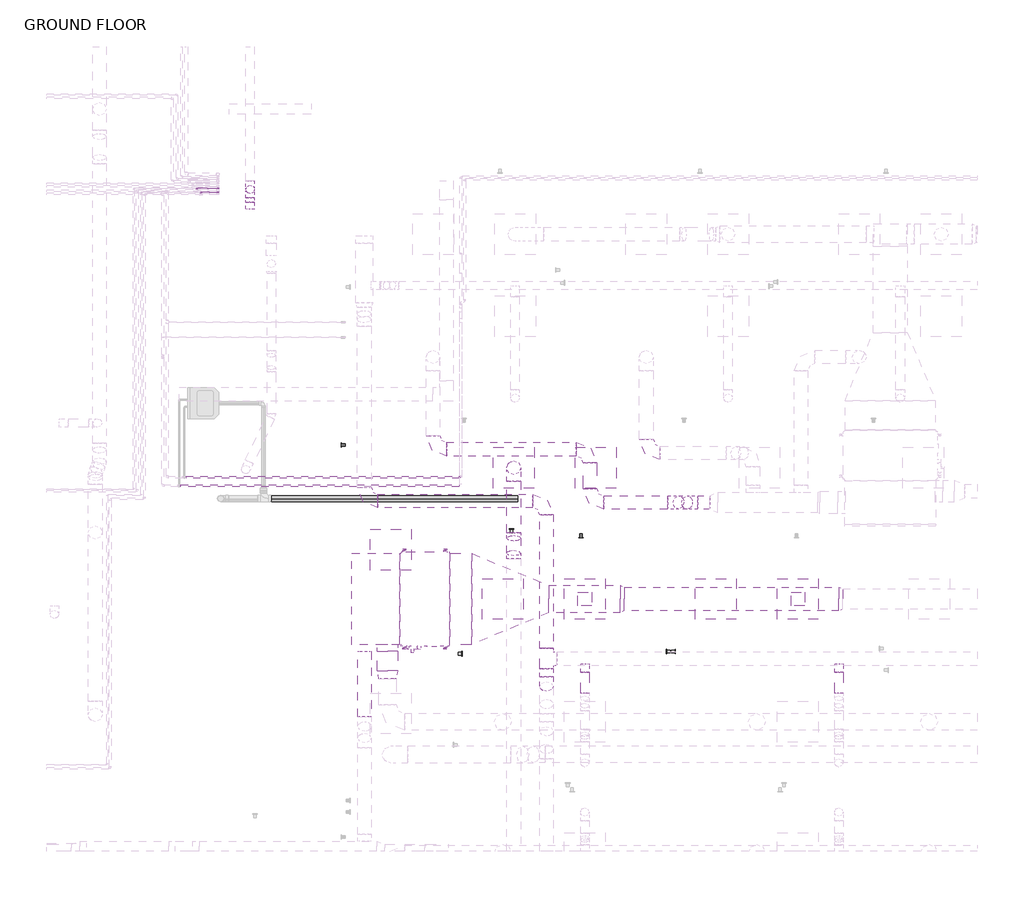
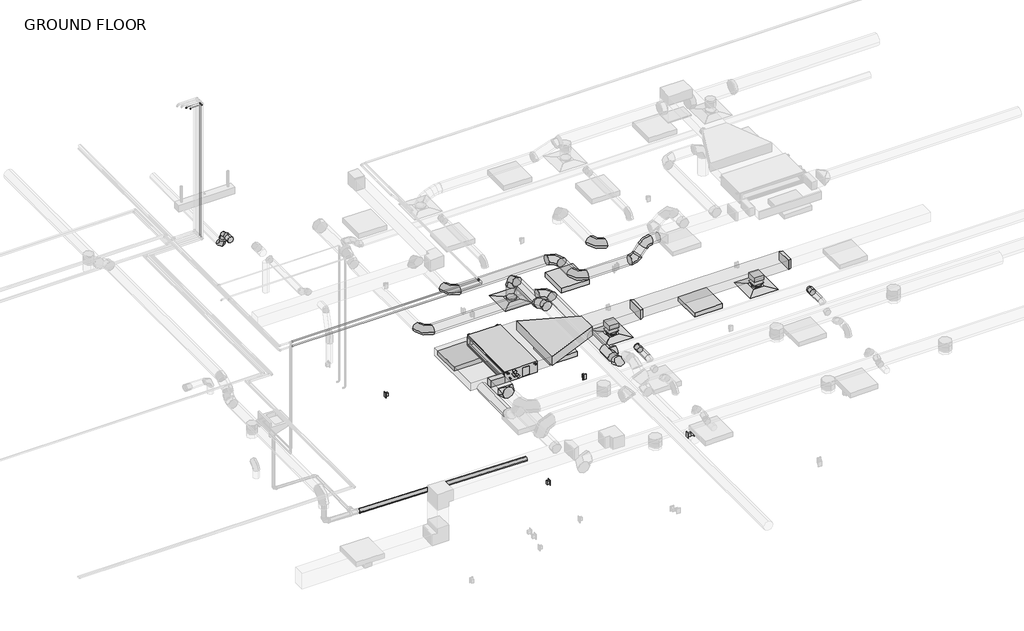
# One storey, part 14 of 21: 27 duct fittings, 23 duct segments, 7 pipe segments, 5 pipe fittings, 5 proxies, 4 light fixtures, 3 air terminals, 2 switching devices.
"""IFC4 building model written with IfcOpenShell, lengths in millimetres."""

from ifc_helpers import new_model, si_unit, point, frame, frame_2d, origin, place, context, project, spatial, polyline, circle_curve, trimmed, segment, composite_curve, outline, extrude, transform, mapped, element, save
from components import air_terminal_e9020785, mechanical_equipment_d478180c, duplex_receptacle_countertop_10251bba, rectangular_takeoff_standard_d07ea574, rectangular_takeoff_standard_fde45e03, rectangular_transition_angle_45_degree_85914557, rectangular_transition_angle_45_degree_791ae252, rectangular_transition_angle_45_degree_a1440fe9, rectangular_to_round_transition_angle_45_degree_5a025447, rectangular_to_round_transition_angle_45_degree_789dc1ad, round_elbow_1_d_fe38274b, round_elbow_1_d_9b139ee9, round_elbow_1_d_a253342a, round_elbow_1_d_c80420c1, round_elbow_1_d_ab3aa7ba, round_takeoff_standard_272bb003, round_takeoff_standard_fb854549, round_tee_standard_4a79b710, troffer_corner_insert_2x2_3lamp_e67c7f8f, elbow_generic_standard_c06ac706, elbow_generic_standard_a088f956

model = new_model("IFC4")

# Units and contexts
model_context = context("Model", 3, world=origin())
ifc_project = project(units=[si_unit("LENGTHUNIT", "METRE", prefix="MILLI")], contexts=[model_context])

# Site, building, storey
site = spatial("IfcSite", under=ifc_project)
building = spatial("IfcBuilding", under=site)
storey = spatial("IfcBuildingStorey", under=building, Name="GROUND FLOOR", Elevation=30480.0)

# Air terminals
placement = place(None, origin())
air_terminal_shape = air_terminal_e9020785(model_context)
element("IfcAirTerminal", 1, ObjectType="Supply Diffuser - Rectangular Face Round Neck - Hosted : 24\"x24\" Face 8\" Neck - Hosted", at=placement, inside=storey, context=model_context, shape_type="MappedRepresentation", body=[
    mapped(air_terminal_shape, transform((-799.1454607, 1382.1195005, 33223.2), x_axis=(0.0, -1.0, 0.0), y_axis=(-1.0, 0.0, 0.0), z_axis=(0.0, 0.0, -1.0))),
])
element("IfcAirTerminal", 2, ObjectType="Supply Diffuser - Rectangular Face Round Neck - Hosted : 24\"x24\" Face 8\" Neck - Hosted", at=placement, inside=storey, context=model_context, shape_type="MappedRepresentation", body=[
    mapped(air_terminal_shape, transform((-3970.9704607, 1382.1195005, 33223.2), x_axis=(0.0, -1.0, 0.0), y_axis=(-1.0, 0.0, 0.0), z_axis=(0.0, 0.0, -1.0))),
])
element("IfcAirTerminal", 3, ObjectType="Supply Diffuser - Rectangular Face Round Neck - Hosted : 24\"x24\" Face 8\" Neck - Hosted", at=placement, inside=storey, context=model_context, shape_type="MappedRepresentation", body=[
    mapped(air_terminal_shape, transform((-5028.2454607, 3334.7445005, 33223.2), x_axis=(0.0, -1.0, 0.0), y_axis=(-1.0, 0.0, 0.0), z_axis=(0.0, 0.0, -1.0))),
])

# Proxies
mechanical_equipment_shape = mechanical_equipment_d478180c(model_context)
element("IfcBuildingElementProxy", 4, Name="PEFY-P-NMAU-E_Medium_Static_Ducted : PEFY-P36NMAU-E", ObjectType="PEFY-P-NMAU-E_Medium_Static_Ducted : PEFY-P36NMAU-E", at=placement, inside=storey, context=model_context, shape_type="MappedRepresentation", body=[
    mapped(mechanical_equipment_shape, transform((-6407.5018914, 1372.1072576, 33458.15), x_axis=(0.0, -1.0, 0.0), y_axis=(1.0, 0.0, 0.0), z_axis=(0.0, 0.0, 1.0))),
])
duplex_receptacle_countertop_shape = duplex_receptacle_countertop_10251bba(model_context)
element("IfcBuildingElementProxy", 5, Name="Duplex Receptacle : Standard", ObjectType="Duplex Receptacle : Standard", at=placement, inside=storey, context=model_context, shape_type="MappedRepresentation", body=[
    mapped(duplex_receptacle_countertop_shape, transform((-2627.9454607, 600.4356606, 30937.2), x_axis=(0.0, 1.0, 0.0), y_axis=(0.0, 0.0, 1.0), z_axis=(1.0, 0.0, 0.0))),
])
element("IfcBuildingElementProxy", 6, Name="Duplex Receptacle : Standard", ObjectType="Duplex Receptacle : Standard", at=placement, inside=storey, context=model_context, shape_type="MappedRepresentation", body=[
    mapped(duplex_receptacle_countertop_shape, transform((-2751.7704607, 600.4356606, 30937.2), x_axis=(0.0, -1.0, 0.0), y_axis=(0.0, 0.0, 1.0), z_axis=(-1.0, 0.0, 0.0))),
])
element("IfcBuildingElementProxy", 7, Name="Duplex Receptacle : Standard", ObjectType="Duplex Receptacle : Standard", at=placement, inside=storey, context=model_context, shape_type="MappedRepresentation", body=[
    mapped(duplex_receptacle_countertop_shape, transform((-5799.7704607, 567.377149, 30937.2), x_axis=(0.0, 1.0, 0.0), y_axis=(0.0, 0.0, 1.0), z_axis=(1.0, 0.0, 0.0))),
])
element("IfcBuildingElementProxy", 8, Name="Duplex Receptacle : Standard", ObjectType="Duplex Receptacle : Standard", at=placement, inside=storey, context=model_context, shape_type="MappedRepresentation", body=[
    mapped(duplex_receptacle_countertop_shape, transform((-5062.4392218, 2420.3445005, 30937.2), x_axis=(-1.0, 0.0, 0.0), y_axis=(0.0, 0.0, 1.0), z_axis=(0.0, 1.0, 0.0))),
])

# Duct fittings
rectangular_takeoff_standard_shape = rectangular_takeoff_standard_d07ea574(model_context)
element("IfcDuctFitting", 9, ObjectType="Rectangular Takeoff : Standard", at=placement, inside=storey, context=model_context, shape_type="MappedRepresentation", body=[
    mapped(rectangular_takeoff_standard_shape, transform((-799.1454607, 1382.1195005, 33502.6), x_axis=(0.0, 0.0, -1.0), y_axis=(1.0, 0.0, 0.0), z_axis=(0.0, -1.0, 0.0))),
])
element("IfcDuctFitting", 10, ObjectType="Rectangular Takeoff : Standard", at=placement, inside=storey, context=model_context, shape_type="MappedRepresentation", body=[
    mapped(rectangular_takeoff_standard_shape, transform((-3970.9704607, 1382.1195005, 33502.6), x_axis=(0.0, 0.0, -1.0), y_axis=(1.0, 0.0, 0.0), z_axis=(0.0, -1.0, 0.0))),
])
rectangular_takeoff_standard_2_shape = rectangular_takeoff_standard_fde45e03(model_context)
element("IfcDuctFitting", 11, ObjectType="Rectangular Takeoff : Standard", at=placement, inside=storey, context=model_context, shape_type="MappedRepresentation", body=[
    mapped(rectangular_takeoff_standard_2_shape, transform((-6907.4143044, 704.2570005, 33617.69375), x_axis=(0.0, -1.0, 0.0), y_axis=(-1.0, 0.0, 0.0), z_axis=(0.0, 0.0, -1.0))),
])
rectangular_transition_angle_45_degree_shape = rectangular_transition_angle_45_degree_85914557(model_context)
element("IfcDuctFitting", 12, ObjectType="Rectangular Transition - Angle : 45 Degree", at=placement, inside=storey, context=model_context, shape_type="MappedRepresentation", body=[
    mapped(rectangular_transition_angle_45_degree_shape, transform((-5651.3200089, 1382.1195005, 33604.2), x_axis=(1.0, 0.0, 0.0), y_axis=(0.0, 1.0, 0.0), z_axis=(0.0, 0.0, 1.0))),
])
rectangular_transition_angle_45_degree_2_shape = rectangular_transition_angle_45_degree_791ae252(model_context)
element("IfcDuctFitting", 13, ObjectType="Rectangular Transition - Angle : 45 Degree", at=placement, inside=storey, context=model_context, shape_type="MappedRepresentation", body=[
    mapped(rectangular_transition_angle_45_degree_2_shape, transform((-3441.5200089, 1382.1195005, 33604.2), x_axis=(1.0, 0.0, 0.0), y_axis=(0.0, 1.0, 0.0), z_axis=(0.0, 0.0, 1.0))),
])
rectangular_transition_angle_45_degree_3_shape = rectangular_transition_angle_45_degree_a1440fe9(model_context)
element("IfcDuctFitting", 14, ObjectType="Rectangular Transition - Angle : 45 Degree", at=placement, inside=storey, context=model_context, shape_type="MappedRepresentation", body=[
    mapped(rectangular_transition_angle_45_degree_3_shape, transform((-189.5454607, 1382.1195005, 33604.2), x_axis=(1.0, 0.0, 0.0), y_axis=(0.0, 1.0, 0.0), z_axis=(0.0, 0.0, 1.0))),
])
rectangular_to_round_transition_angle_45_degree_shape = rectangular_to_round_transition_angle_45_degree_5a025447(model_context)
element("IfcDuctFitting", 15, ObjectType="Rectangular to Round Transition - Angle : 45 Degree", at=placement, inside=storey, context=model_context, shape_type="MappedRepresentation", body=[
    mapped(rectangular_to_round_transition_angle_45_degree_shape, transform((-799.1454607, 1382.1195005, 33327.975), x_axis=(0.0, 0.0, -1.0), y_axis=(1.0, 0.0, 0.0), z_axis=(0.0, -1.0, 0.0))),
])
element("IfcDuctFitting", 16, ObjectType="Rectangular to Round Transition - Angle : 45 Degree", at=placement, inside=storey, context=model_context, shape_type="MappedRepresentation", body=[
    mapped(rectangular_to_round_transition_angle_45_degree_shape, transform((-3970.9704607, 1382.1195005, 33327.975), x_axis=(0.0, 0.0, -1.0), y_axis=(1.0, 0.0, 0.0), z_axis=(0.0, -1.0, 0.0))),
])
rectangular_to_round_transition_angle_45_degree_2_shape = rectangular_to_round_transition_angle_45_degree_789dc1ad(model_context)
element("IfcDuctFitting", 17, ObjectType="Rectangular to Round Transition - Angle : 45 Degree", at=placement, inside=storey, context=model_context, shape_type="MappedRepresentation", body=[
    mapped(rectangular_to_round_transition_angle_45_degree_2_shape, transform((-6907.4143044, 315.3195005, 33617.69375), x_axis=(0.0, -1.0, 0.0), y_axis=(1.0, 0.0, 0.0), z_axis=(0.0, 0.0, 1.0))),
])
round_elbow_1_d_shape = round_elbow_1_d_fe38274b(model_context)
element("IfcDuctFitting", 18, ObjectType="Round Elbow : 1 D", at=placement, inside=storey, context=model_context, shape_type="MappedRepresentation", body=[
    mapped(round_elbow_1_d_shape, transform((-2636.3455027, 2818.301218, 33629.6), x_axis=(1.0, 0.0, 0.0), y_axis=(0.0, 0.0, 1.0), z_axis=(0.0, -1.0, 0.0))),
])
element("IfcDuctFitting", 19, ObjectType="Round Elbow : 1 D", at=placement, inside=storey, context=model_context, shape_type="MappedRepresentation", body=[
    mapped(round_elbow_1_d_shape, transform((-2387.6671708, 2818.301218, 33947.89375), x_axis=(0.6156614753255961, 0.0, 0.7880107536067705), y_axis=(0.7880107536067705, 0.0, -0.6156614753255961), z_axis=(0.0, 1.0, 0.0))),
])
round_elbow_1_d_2_shape = round_elbow_1_d_9b139ee9(model_context)
element("IfcDuctFitting", 20, ObjectType="Round Elbow : 1 D", at=placement, inside=storey, context=model_context, shape_type="MappedRepresentation", body=[
    mapped(round_elbow_1_d_2_shape, transform((-5028.2454607, 2325.0945005, 33743.160826), x_axis=(0.0, -1.0, 0.0), y_axis=(0.0, 0.0, 1.0), z_axis=(-1.0, 0.0, 0.0))),
])
element("IfcDuctFitting", 21, ObjectType="Round Elbow : 1 D", at=placement, inside=storey, context=model_context, shape_type="MappedRepresentation", body=[
    mapped(round_elbow_1_d_2_shape, transform((-5028.2454607, 2026.1149962, 33877.25), x_axis=(0.0, -0.9124365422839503, 0.4092182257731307), y_axis=(0.0, -0.4092182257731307, -0.9124365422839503), z_axis=(1.0, 0.0, 0.0))),
])
round_elbow_1_d_3_shape = round_elbow_1_d_a253342a(model_context)
element("IfcDuctFitting", 22, ObjectType="Round Elbow : 1 D", at=placement, inside=storey, context=model_context, shape_type="MappedRepresentation", body=[
    mapped(round_elbow_1_d_3_shape, transform((-5028.2454607, 3334.7445005, 33743.160826), x_axis=(0.0, 0.0, 1.0), y_axis=(0.0, -1.0, 0.0), z_axis=(1.0, 0.0, 0.0))),
])
element("IfcDuctFitting", 23, ObjectType="Round Elbow : 1 D", at=placement, inside=storey, context=model_context, shape_type="MappedRepresentation", body=[
    mapped(round_elbow_1_d_3_shape, transform((-6228.3954607, 3610.9695005, 33629.6), x_axis=(0.0, -1.0, 0.0), y_axis=(1.0, 0.0, 0.0), z_axis=(0.0, 0.0, 1.0))),
])
element("IfcDuctFitting", 24, ObjectType="Round Elbow : 1 D", at=placement, inside=storey, context=model_context, shape_type="MappedRepresentation", body=[
    mapped(round_elbow_1_d_3_shape, transform((-3891.5954607, 3610.9695005, 33629.6), x_axis=(0.0, 1.0, 0.0), y_axis=(-1.0, 0.0, 0.0), z_axis=(0.0, 0.0, 1.0))),
])
element("IfcDuctFitting", 25, ObjectType="Round Elbow : 1 D", at=placement, inside=storey, context=model_context, shape_type="MappedRepresentation", body=[
    mapped(round_elbow_1_d_3_shape, transform((-3891.5954607, 2818.301218, 33629.6), x_axis=(0.0, -1.0, 0.0), y_axis=(1.0, 0.0, 0.0), z_axis=(0.0, 0.0, 1.0))),
])
element("IfcDuctFitting", 26, ObjectType="Round Elbow : 1 D", at=placement, inside=storey, context=model_context, shape_type="MappedRepresentation", body=[
    mapped(round_elbow_1_d_3_shape, transform((-4541.976464, 2841.896647, 33528.0), x_axis=(0.0, 1.0, 0.0), y_axis=(-1.0, 0.0, 0.0), z_axis=(0.0, 0.0, 1.0))),
])
element("IfcDuctFitting", 27, ObjectType="Round Elbow : 1 D", at=placement, inside=storey, context=model_context, shape_type="MappedRepresentation", body=[
    mapped(round_elbow_1_d_3_shape, transform((-7253.9204607, 2841.896647, 33528.0), x_axis=(0.0, -1.0, 0.0), y_axis=(1.0, 0.0, 0.0), z_axis=(0.0, 0.0, 1.0))),
])
element("IfcDuctFitting", 28, ObjectType="Round Elbow : 1 D", at=placement, inside=storey, context=model_context, shape_type="MappedRepresentation", body=[
    mapped(round_elbow_1_d_3_shape, transform((-3056.5704607, 3554.901218, 33629.6), x_axis=(0.0, -1.0, 0.0), y_axis=(1.0, 0.0, 0.0), z_axis=(0.0, 0.0, 1.0))),
])
round_elbow_1_d_4_shape = round_elbow_1_d_c80420c1(model_context)
element("IfcDuctFitting", 29, ObjectType="Round Elbow : 1 D", at=placement, inside=storey, context=model_context, shape_type="MappedRepresentation", body=[
    mapped(round_elbow_1_d_4_shape, transform((-8950.9579607, 7478.1195005, 33629.6), x_axis=(0.0, 0.0, 1.0), y_axis=(0.0, -1.0, 0.0), z_axis=(1.0, 0.0, 0.0))),
])
element("IfcDuctFitting", 30, ObjectType="Round Elbow : 1 D", at=placement, inside=storey, context=model_context, shape_type="MappedRepresentation", body=[
    mapped(round_elbow_1_d_4_shape, transform((-8950.9579607, 7478.1195005, 33324.8), x_axis=(0.0, 0.0, -1.0), y_axis=(0.0, 1.0, 0.0), z_axis=(1.0, 0.0, 0.0))),
])
round_elbow_1_d_5_shape = round_elbow_1_d_ab3aa7ba(model_context)
element("IfcDuctFitting", 31, ObjectType="Round Elbow : 1 D", at=placement, inside=storey, context=model_context, shape_type="MappedRepresentation", body=[
    mapped(round_elbow_1_d_5_shape, transform((-4541.976464, 139.5450374, 33528.0), x_axis=(0.0, 0.7071067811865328, -0.7071067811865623), y_axis=(0.0, 0.7071067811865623, 0.7071067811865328), z_axis=(1.0, 0.0, 0.0))),
])
round_takeoff_standard_shape = round_takeoff_standard_272bb003(model_context)
element("IfcDuctFitting", 32, ObjectType="Round Takeoff : Standard", at=placement, inside=storey, context=model_context, shape_type="MappedRepresentation", body=[
    mapped(round_takeoff_standard_shape, transform((-3970.9704607, 391.7414929, 33528.0), x_axis=(0.0, -1.0, 0.0), y_axis=(-1.0, 0.0, 0.0), z_axis=(0.0, 0.0, -1.0))),
])
element("IfcDuctFitting", 33, ObjectType="Round Takeoff : Standard", at=placement, inside=storey, context=model_context, shape_type="MappedRepresentation", body=[
    mapped(round_takeoff_standard_shape, transform((-189.5454607, 391.7414929, 33528.0), x_axis=(0.0, -1.0, 0.0), y_axis=(-1.0, 0.0, 0.0), z_axis=(0.0, 0.0, -1.0))),
])
round_takeoff_standard_2_shape = round_takeoff_standard_fb854549(model_context)
element("IfcDuctFitting", 34, ObjectType="Round Takeoff : Standard", at=placement, inside=storey, context=model_context, shape_type="MappedRepresentation", body=[
    mapped(round_takeoff_standard_2_shape, transform((-8950.9579607, 7187.8293332, 33629.6), x_axis=(0.0, 1.0, 0.0), y_axis=(1.0, 0.0, 0.0), z_axis=(0.0, 0.0, -1.0))),
])
round_tee_standard_shape = round_tee_standard_4a79b710(model_context)
element("IfcDuctFitting", 35, ObjectType="Round Tee : Standard", at=placement, inside=storey, context=model_context, shape_type="MappedRepresentation", body=[
    mapped(round_tee_standard_shape, transform((-4541.976464, 493.3414929, 33528.0), x_axis=(0.0, 1.0, 0.0), y_axis=(-1.0, 0.0, 0.0), z_axis=(0.0, 0.0, 1.0))),
])

# Duct segments
element("IfcDuctSegment", 36, ObjectType="Mitered Elbows / Taps", at=placement, inside=storey, context=model_context, shape_type="SweptSolid", body=[
    extrude(outline(polyline([(-6725.0018914, 2059.9820005), (-6725.0018914, 704.2570005), (-7438.8450089, 704.2570005), (-7438.8450089, 2059.9820005), (-6725.0018914, 2059.9820005)])), frame((0.0, 0.0, 33528.0), z_axis=(0.0, 0.0, 1.0), x_axis=(1.0, 0.0, 0.0)), (0.0, 0.0, 1.0), 179.3875),
])
element("IfcDuctSegment", 37, ObjectType="Mitered Elbows / Taps", at=placement, inside=storey, context=model_context, shape_type="SweptSolid", body=[
    extrude(outline(polyline([(-5978.8768914, 704.2570005), (-5978.8768914, 2059.9820005), (-5651.3200089, 2059.9820005), (-5651.3200089, 704.2570005), (-5978.8768914, 704.2570005)])), frame((0.0, 0.0, 33501.0125), z_axis=(0.0, 0.0, 1.0), x_axis=(1.0, 0.0, 0.0)), (0.0, 0.0, 1.0), 206.375),
])
element("IfcDuctSegment", 38, ObjectType="Mitered Elbows / Taps", at=placement, inside=storey, context=model_context, shape_type="SweptSolid", body=[
    extrude(outline(polyline([(-4505.3833638, 1178.9195005), (-4505.3833638, 1585.3195005), (-3441.5200089, 1585.3195005), (-3441.5200089, 1178.9195005), (-4505.3833638, 1178.9195005)])), frame((0.0, 0.0, 33502.6), z_axis=(0.0, 0.0, 1.0), x_axis=(1.0, 0.0, 0.0)), (0.0, 0.0, 1.0), 203.2),
])
element("IfcDuctSegment", 39, ObjectType="Mitered Elbows / Taps", at=placement, inside=storey, context=model_context, shape_type="SweptSolid", body=[
    extrude(outline(polyline([(-3380.1989844, 1204.3195005), (-3380.1989844, 1559.9195005), (-189.5454607, 1559.9195005), (-189.5454607, 1204.3195005), (-3380.1989844, 1204.3195005)])), frame((0.0, 0.0, 33502.6), z_axis=(0.0, 0.0, 1.0), x_axis=(1.0, 0.0, 0.0)), (0.0, 0.0, 1.0), 203.2),
])
element("IfcDuctSegment", 40, ObjectType="Mitered Elbows / Taps", at=placement, inside=storey, context=model_context, shape_type="SweptSolid", body=[
    extrude(outline(polyline([(-900.7454607, 1483.7195005), (-697.5454607, 1483.7195005), (-697.5454607, 1280.5195005), (-900.7454607, 1280.5195005), (-900.7454607, 1483.7195005)])), frame((0.0, 0.0, 33327.975), z_axis=(0.0, 0.0, 1.0), x_axis=(1.0, 0.0, 0.0)), (0.0, 0.0, 1.0), 73.025),
])
element("IfcDuctSegment", 41, ObjectType="Mitered Elbows / Taps", at=placement, inside=storey, context=model_context, shape_type="SweptSolid", body=[
    extrude(outline(polyline([(-4072.5704607, 1483.7195005), (-3869.3704607, 1483.7195005), (-3869.3704607, 1280.5195005), (-4072.5704607, 1280.5195005), (-4072.5704607, 1483.7195005)])), frame((0.0, 0.0, 33327.975), z_axis=(0.0, 0.0, 1.0), x_axis=(1.0, 0.0, 0.0)), (0.0, 0.0, 1.0), 73.025),
])
element("IfcDuctSegment", 42, ObjectType="Mitered Elbows / Taps", at=placement, inside=storey, context=model_context, shape_type="SweptSolid", body=[
    extrude(outline(polyline([(-7059.8143044, 602.6570005), (-6755.0143044, 602.6570005), (-6755.0143044, 315.3195005), (-7059.8143044, 315.3195005), (-7059.8143044, 602.6570005)])), frame((0.0, 0.0, 33541.49375), z_axis=(0.0, 0.0, 1.0), x_axis=(1.0, 0.0, 0.0)), (0.0, 0.0, 1.0), 152.4),
])
element("IfcDuctSegment", 43, ObjectType="Taps / Short Radius", at=placement, inside=storey, context=model_context, shape_type="SweptSolid", body=[
    extrude(outline(composite_curve([segment(trimmed(circle_curve(frame_2d((-8950.9579607, 7478.1195005)), 63.5), [point((-9014.4579607, 7478.1195005))], [point((-8950.9579607, 7541.6195005))], False, "CARTESIAN"), True, "CONTINUOUS"), segment(trimmed(circle_curve(frame_2d((-8950.9579607, 7478.1195005)), 63.5), [point((-8950.9579607, 7541.6195005))], [point((-8887.4579607, 7478.1195005))], False, "CARTESIAN"), True, "CONTINUOUS"), segment(trimmed(circle_curve(frame_2d((-8950.9579607, 7478.1195005)), 63.5), [point((-8887.4579607, 7478.1195005))], [point((-8950.9579607, 7414.6195005))], False, "CARTESIAN"), True, "CONTINUOUS"), segment(trimmed(circle_curve(frame_2d((-8950.9579607, 7478.1195005)), 63.5), [point((-8950.9579607, 7414.6195005))], [point((-9014.4579607, 7478.1195005))], False, "CARTESIAN"), True, "CONTINUOUS")], self_intersect=False)), frame((0.0, 0.0, 33451.8), z_axis=(0.0, 0.0, 1.0), x_axis=(1.0, 0.0, 0.0)), (0.0, 0.0, 1.0), 50.8),
])
element("IfcDuctSegment", 44, ObjectType="Taps / Short Radius", at=placement, inside=storey, context=model_context, shape_type="SweptSolid", body=[
    extrude(outline(composite_curve([segment(trimmed(circle_curve(frame_2d((33629.6, -8950.9579607)), 63.5), [point((33629.6, -8887.4579607))], [point((33693.1, -8950.9579607))], False, "CARTESIAN"), True, "CONTINUOUS"), segment(trimmed(circle_curve(frame_2d((33629.6, -8950.9579607)), 63.5), [point((33693.1, -8950.9579607))], [point((33629.6, -9014.4579607))], False, "CARTESIAN"), True, "CONTINUOUS"), segment(trimmed(circle_curve(frame_2d((33629.6, -8950.9579607)), 63.5), [point((33629.6, -9014.4579607))], [point((33566.1, -8950.9579607))], False, "CARTESIAN"), True, "CONTINUOUS"), segment(trimmed(circle_curve(frame_2d((33629.6, -8950.9579607)), 63.5), [point((33566.1, -8950.9579607))], [point((33629.6, -8887.4579607))], False, "CARTESIAN"), True, "CONTINUOUS")], self_intersect=False)), frame((0.0, 7289.4293332, 0.0), z_axis=(0.0, 1.0, 0.0), x_axis=(0.0, 0.0, 1.0)), (0.0, 0.0, 1.0), 61.6901673),
])
element("IfcDuctSegment", 45, ObjectType="Taps / Short Radius", at=placement, inside=storey, context=model_context, shape_type="SweptSolid", body=[
    extrude(outline(composite_curve([segment(trimmed(circle_curve(frame_2d((-5028.2454607, 3334.7445005)), 101.6), [point((-5129.8454607, 3334.7445005))], [point((-5028.2454607, 3436.3445005))], False, "CARTESIAN"), True, "CONTINUOUS"), segment(trimmed(circle_curve(frame_2d((-5028.2454607, 3334.7445005)), 101.6), [point((-5028.2454607, 3436.3445005))], [point((-4926.6454607, 3334.7445005))], False, "CARTESIAN"), True, "CONTINUOUS"), segment(trimmed(circle_curve(frame_2d((-5028.2454607, 3334.7445005)), 101.6), [point((-4926.6454607, 3334.7445005))], [point((-5028.2454607, 3233.1445005))], False, "CARTESIAN"), True, "CONTINUOUS"), segment(trimmed(circle_curve(frame_2d((-5028.2454607, 3334.7445005)), 101.6), [point((-5028.2454607, 3233.1445005))], [point((-5129.8454607, 3334.7445005))], False, "CARTESIAN"), True, "CONTINUOUS")], self_intersect=False)), frame((0.0, 0.0, 33277.175), z_axis=(0.0, 0.0, 1.0), x_axis=(1.0, 0.0, 0.0)), (0.0, 0.0, 1.0), 262.785826),
])
element("IfcDuctSegment", 46, ObjectType="Taps / Short Radius", at=placement, inside=storey, context=model_context, shape_type="SweptSolid", body=[
    extrude(outline(composite_curve([segment(trimmed(circle_curve(frame_2d((3610.9695005, 33629.6)), 101.6), [point((3509.3695005, 33629.6))], [point((3610.9695005, 33731.2))], False, "CARTESIAN"), True, "CONTINUOUS"), segment(trimmed(circle_curve(frame_2d((3610.9695005, 33629.6)), 101.6), [point((3610.9695005, 33731.2))], [point((3712.5695005, 33629.6))], False, "CARTESIAN"), True, "CONTINUOUS"), segment(trimmed(circle_curve(frame_2d((3610.9695005, 33629.6)), 101.6), [point((3712.5695005, 33629.6))], [point((3610.9695005, 33528.0))], False, "CARTESIAN"), True, "CONTINUOUS"), segment(trimmed(circle_curve(frame_2d((3610.9695005, 33629.6)), 101.6), [point((3610.9695005, 33528.0))], [point((3509.3695005, 33629.6))], False, "CARTESIAN"), True, "CONTINUOUS")], self_intersect=False)), frame((-6025.1954607, 0.0, 0.0), z_axis=(1.0, 0.0, 0.0), x_axis=(0.0, 1.0, 0.0)), (0.0, 0.0, 1.0), 1930.4),
])
element("IfcDuctSegment", 47, ObjectType="Taps / Short Radius", at=placement, inside=storey, context=model_context, shape_type="SweptSolid", body=[
    extrude(outline(composite_curve([segment(trimmed(circle_curve(frame_2d((33629.6, -3891.5954607)), 101.6), [point((33629.6, -3993.1954607))], [point((33528.0, -3891.5954607))], False, "CARTESIAN"), True, "CONTINUOUS"), segment(trimmed(circle_curve(frame_2d((33629.6, -3891.5954607)), 101.6), [point((33528.0, -3891.5954607))], [point((33629.6, -3789.9954607))], False, "CARTESIAN"), True, "CONTINUOUS"), segment(trimmed(circle_curve(frame_2d((33629.6, -3891.5954607)), 101.6), [point((33629.6, -3789.9954607))], [point((33731.2, -3891.5954607))], False, "CARTESIAN"), True, "CONTINUOUS"), segment(trimmed(circle_curve(frame_2d((33629.6, -3891.5954607)), 101.6), [point((33731.2, -3891.5954607))], [point((33629.6, -3993.1954607))], False, "CARTESIAN"), True, "CONTINUOUS")], self_intersect=False)), frame((0.0, 3021.501218, 0.0), z_axis=(0.0, 1.0, 0.0), x_axis=(0.0, 0.0, 1.0)), (0.0, 0.0, 1.0), 386.2682826),
])
element("IfcDuctSegment", 48, ObjectType="Taps / Short Radius", at=placement, inside=storey, context=model_context, shape_type="SweptSolid", body=[
    extrude(outline(composite_curve([segment(trimmed(circle_curve(frame_2d((33617.69375, -7247.6134283)), 101.6), [point((33617.69375, -7349.2134283))], [point((33516.09375, -7247.6134283))], False, "CARTESIAN"), True, "CONTINUOUS"), segment(trimmed(circle_curve(frame_2d((33617.69375, -7247.6134283)), 101.6), [point((33516.09375, -7247.6134283))], [point((33617.69375, -7146.0134283))], False, "CARTESIAN"), True, "CONTINUOUS"), segment(trimmed(circle_curve(frame_2d((33617.69375, -7247.6134283)), 101.6), [point((33617.69375, -7146.0134283))], [point((33719.29375, -7247.6134283))], False, "CARTESIAN"), True, "CONTINUOUS"), segment(trimmed(circle_curve(frame_2d((33617.69375, -7247.6134283)), 101.6), [point((33719.29375, -7247.6134283))], [point((33617.69375, -7349.2134283))], False, "CARTESIAN"), True, "CONTINUOUS")], self_intersect=False)), frame((0.0, -372.4290959, 0.0), z_axis=(0.0, 1.0, 0.0), x_axis=(0.0, 0.0, 1.0)), (0.0, 0.0, 1.0), 975.0860964),
])
element("IfcDuctSegment", 49, ObjectType="Taps / Short Radius", at=placement, inside=storey, context=model_context, shape_type="SweptSolid", body=[
    extrude(outline(composite_curve([segment(trimmed(circle_curve(frame_2d((33528.0, -4541.976464)), 101.6), [point((33528.0, -4440.376464))], [point((33629.6, -4541.976464))], False, "CARTESIAN"), True, "CONTINUOUS"), segment(trimmed(circle_curve(frame_2d((33528.0, -4541.976464)), 101.6), [point((33629.6, -4541.976464))], [point((33528.0, -4643.576464))], False, "CARTESIAN"), True, "CONTINUOUS"), segment(trimmed(circle_curve(frame_2d((33528.0, -4541.976464)), 101.6), [point((33528.0, -4643.576464))], [point((33426.4, -4541.976464))], False, "CARTESIAN"), True, "CONTINUOUS"), segment(trimmed(circle_curve(frame_2d((33528.0, -4541.976464)), 101.6), [point((33426.4, -4541.976464))], [point((33528.0, -4440.376464))], False, "CARTESIAN"), True, "CONTINUOUS")], self_intersect=False)), frame((0.0, 645.7414929, 0.0), z_axis=(0.0, 1.0, 0.0), x_axis=(0.0, 0.0, 1.0)), (0.0, 0.0, 1.0), 1992.955154),
])
element("IfcDuctSegment", 50, ObjectType="Taps / Short Radius", at=placement, inside=storey, context=model_context, shape_type="SweptSolid", body=[
    extrude(outline(composite_curve([segment(trimmed(circle_curve(frame_2d((2841.896647, 33528.0)), 101.6), [point((2943.496647, 33528.0))], [point((2841.896647, 33426.4))], False, "CARTESIAN"), True, "CONTINUOUS"), segment(trimmed(circle_curve(frame_2d((2841.896647, 33528.0)), 101.6), [point((2841.896647, 33426.4))], [point((2740.296647, 33528.0))], False, "CARTESIAN"), True, "CONTINUOUS"), segment(trimmed(circle_curve(frame_2d((2841.896647, 33528.0)), 101.6), [point((2740.296647, 33528.0))], [point((2841.896647, 33629.6))], False, "CARTESIAN"), True, "CONTINUOUS"), segment(trimmed(circle_curve(frame_2d((2841.896647, 33528.0)), 101.6), [point((2841.896647, 33629.6))], [point((2943.496647, 33528.0))], False, "CARTESIAN"), True, "CONTINUOUS")], self_intersect=False)), frame((-7050.7204607, 0.0, 0.0), z_axis=(1.0, 0.0, 0.0), x_axis=(0.0, 1.0, 0.0)), (0.0, 0.0, 1.0), 2305.5439967),
])
element("IfcDuctSegment", 51, ObjectType="Taps / Short Radius", at=placement, inside=storey, context=model_context, shape_type="SweptSolid", body=[
    extrude(outline(composite_curve([segment(trimmed(circle_curve(frame_2d((33528.0, -3970.9704607)), 63.5), [point((33528.0, -3907.4704607))], [point((33591.5, -3970.9704607))], False, "CARTESIAN"), True, "CONTINUOUS"), segment(trimmed(circle_curve(frame_2d((33528.0, -3970.9704607)), 63.5), [point((33591.5, -3970.9704607))], [point((33528.0, -4034.4704607))], False, "CARTESIAN"), True, "CONTINUOUS"), segment(trimmed(circle_curve(frame_2d((33528.0, -3970.9704607)), 63.5), [point((33528.0, -4034.4704607))], [point((33464.5, -3970.9704607))], False, "CARTESIAN"), True, "CONTINUOUS"), segment(trimmed(circle_curve(frame_2d((33528.0, -3970.9704607)), 63.5), [point((33464.5, -3970.9704607))], [point((33528.0, -3907.4704607))], False, "CARTESIAN"), True, "CONTINUOUS")], self_intersect=False)), frame((0.0, -23.6803249, 0.0), z_axis=(0.0, 1.0, 0.0), x_axis=(0.0, 0.0, 1.0)), (0.0, 0.0, 1.0), 313.8218179),
])
element("IfcDuctSegment", 52, ObjectType="Taps / Short Radius", at=placement, inside=storey, context=model_context, shape_type="SweptSolid", body=[
    extrude(outline(composite_curve([segment(trimmed(circle_curve(frame_2d((33528.0, -4541.976464)), 101.6), [point((33528.0, -4440.376464))], [point((33629.6, -4541.976464))], False, "CARTESIAN"), True, "CONTINUOUS"), segment(trimmed(circle_curve(frame_2d((33528.0, -4541.976464)), 101.6), [point((33629.6, -4541.976464))], [point((33528.0, -4643.576464))], False, "CARTESIAN"), True, "CONTINUOUS"), segment(trimmed(circle_curve(frame_2d((33528.0, -4541.976464)), 101.6), [point((33528.0, -4643.576464))], [point((33426.4, -4541.976464))], False, "CARTESIAN"), True, "CONTINUOUS"), segment(trimmed(circle_curve(frame_2d((33528.0, -4541.976464)), 101.6), [point((33426.4, -4541.976464))], [point((33528.0, -4440.376464))], False, "CARTESIAN"), True, "CONTINUOUS")], self_intersect=False)), frame((0.0, 223.7132333, 0.0), z_axis=(0.0, 1.0, 0.0), x_axis=(0.0, 0.0, 1.0)), (0.0, 0.0, 1.0), 117.2282596),
])
element("IfcDuctSegment", 53, ObjectType="Taps / Short Radius", at=placement, inside=storey, context=model_context, shape_type="SweptSolid", body=[
    extrude(outline(composite_curve([segment(trimmed(circle_curve(frame_2d((33528.0, -189.5454607)), 63.5), [point((33528.0, -126.0454607))], [point((33591.5, -189.5454607))], False, "CARTESIAN"), True, "CONTINUOUS"), segment(trimmed(circle_curve(frame_2d((33528.0, -189.5454607)), 63.5), [point((33591.5, -189.5454607))], [point((33528.0, -253.0454607))], False, "CARTESIAN"), True, "CONTINUOUS"), segment(trimmed(circle_curve(frame_2d((33528.0, -189.5454607)), 63.5), [point((33528.0, -253.0454607))], [point((33464.5, -189.5454607))], False, "CARTESIAN"), True, "CONTINUOUS"), segment(trimmed(circle_curve(frame_2d((33528.0, -189.5454607)), 63.5), [point((33464.5, -189.5454607))], [point((33528.0, -126.0454607))], False, "CARTESIAN"), True, "CONTINUOUS")], self_intersect=False)), frame((0.0, -23.6803249, 0.0), z_axis=(0.0, 1.0, 0.0), x_axis=(0.0, 0.0, 1.0)), (0.0, 0.0, 1.0), 313.8218179),
])
element("IfcDuctSegment", 54, ObjectType="Taps / Short Radius", at=placement, inside=storey, context=model_context, shape_type="SweptSolid", body=[
    extrude(outline(composite_curve([segment(trimmed(circle_curve(frame_2d((2818.301218, 33629.6)), 101.6), [point((2716.701218, 33629.6))], [point((2818.301218, 33731.2))], False, "CARTESIAN"), True, "CONTINUOUS"), segment(trimmed(circle_curve(frame_2d((2818.301218, 33629.6)), 101.6), [point((2818.301218, 33731.2))], [point((2919.901218, 33629.6))], False, "CARTESIAN"), True, "CONTINUOUS"), segment(trimmed(circle_curve(frame_2d((2818.301218, 33629.6)), 101.6), [point((2919.901218, 33629.6))], [point((2818.301218, 33528.0))], False, "CARTESIAN"), True, "CONTINUOUS"), segment(trimmed(circle_curve(frame_2d((2818.301218, 33629.6)), 101.6), [point((2818.301218, 33528.0))], [point((2716.701218, 33629.6))], False, "CARTESIAN"), True, "CONTINUOUS")], self_intersect=False)), frame((-3688.3954607, 0.0, 0.0), z_axis=(1.0, 0.0, 0.0), x_axis=(0.0, 1.0, 0.0)), (0.0, 0.0, 1.0), 952.942696),
])
element("IfcDuctSegment", 55, ObjectType="Taps / Short Radius", at=placement, inside=storey, context=model_context, shape_type="SweptSolid", body=[
    extrude(outline(composite_curve([segment(trimmed(circle_curve(frame_2d((0.0, 101.6)), 101.6), [point((0.0, 0.0))], [point((-101.6, 101.6))], False, "CARTESIAN"), True, "CONTINUOUS"), segment(trimmed(circle_curve(frame_2d((0.0, 101.6)), 101.6), [point((-101.6, 101.6))], [point((0.0, 203.2))], False, "CARTESIAN"), True, "CONTINUOUS"), segment(trimmed(circle_curve(frame_2d((0.0, 101.6)), 101.6), [point((0.0, 203.2))], [point((101.6, 101.6))], False, "CARTESIAN"), True, "CONTINUOUS"), segment(trimmed(circle_curve(frame_2d((0.0, 101.6)), 101.6), [point((101.6, 101.6))], [point((0.0, 0.0))], False, "CARTESIAN"), True, "CONTINUOUS")], self_intersect=False)), frame((-2575.3289795, 2716.701218, 33707.6975882), z_axis=(0.6156614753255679, 0.0, 0.7880107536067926), x_axis=(0.7880107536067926, 0.0, -0.6156614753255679)), (0.0, 0.0, 1.0), 205.7060425),
])
element("IfcDuctSegment", 56, ObjectType="Taps / Short Radius", at=placement, inside=storey, context=model_context, shape_type="SweptSolid", body=[
    extrude(outline(composite_curve([segment(trimmed(circle_curve(frame_2d((2818.301218, 33947.89375)), 101.6), [point((2919.901218, 33947.89375))], [point((2818.301218, 33846.29375))], False, "CARTESIAN"), True, "CONTINUOUS"), segment(trimmed(circle_curve(frame_2d((2818.301218, 33947.89375)), 101.6), [point((2818.301218, 33846.29375))], [point((2716.701218, 33947.89375))], False, "CARTESIAN"), True, "CONTINUOUS"), segment(trimmed(circle_curve(frame_2d((2818.301218, 33947.89375)), 101.6), [point((2716.701218, 33947.89375))], [point((2818.301218, 34049.49375))], False, "CARTESIAN"), True, "CONTINUOUS"), segment(trimmed(circle_curve(frame_2d((2818.301218, 33947.89375)), 101.6), [point((2818.301218, 34049.49375))], [point((2919.901218, 33947.89375))], False, "CARTESIAN"), True, "CONTINUOUS")], self_intersect=False)), frame((-2288.5599088, 0.0, 0.0), z_axis=(1.0, 0.0, 0.0), x_axis=(0.0, 1.0, 0.0)), (0.0, 0.0, 1.0), 176.6503454),
])
element("IfcDuctSegment", 57, ObjectType="Taps / Short Radius", at=placement, inside=storey, context=model_context, shape_type="SweptSolid", body=[
    extrude(outline(composite_curve([segment(trimmed(circle_curve(frame_2d((33743.160826, -5028.2454607)), 101.6), [point((33743.160826, -5129.8454607))], [point((33641.560826, -5028.2454607))], False, "CARTESIAN"), True, "CONTINUOUS"), segment(trimmed(circle_curve(frame_2d((33743.160826, -5028.2454607)), 101.6), [point((33641.560826, -5028.2454607))], [point((33743.160826, -4926.6454607))], False, "CARTESIAN"), True, "CONTINUOUS"), segment(trimmed(circle_curve(frame_2d((33743.160826, -5028.2454607)), 101.6), [point((33743.160826, -4926.6454607))], [point((33844.760826, -5028.2454607))], False, "CARTESIAN"), True, "CONTINUOUS"), segment(trimmed(circle_curve(frame_2d((33743.160826, -5028.2454607)), 101.6), [point((33844.760826, -5028.2454607))], [point((33743.160826, -5129.8454607))], False, "CARTESIAN"), True, "CONTINUOUS")], self_intersect=False)), frame((0.0, 2368.574711, 0.0), z_axis=(0.0, 1.0, 0.0), x_axis=(0.0, 0.0, 1.0)), (0.0, 0.0, 1.0), 762.9697895),
])
element("IfcDuctSegment", 58, ObjectType="Taps / Short Radius", at=placement, inside=storey, context=model_context, shape_type="SweptSolid", body=[
    extrude(outline(composite_curve([segment(trimmed(circle_curve(frame_2d((0.0, -101.6)), 101.6), [point((101.6, -101.6))], [point((0.0, -203.2))], False, "CARTESIAN"), True, "CONTINUOUS"), segment(trimmed(circle_curve(frame_2d((0.0, -101.6)), 101.6), [point((0.0, -203.2))], [point((-101.6, -101.6))], False, "CARTESIAN"), True, "CONTINUOUS"), segment(trimmed(circle_curve(frame_2d((0.0, -101.6)), 101.6), [point((-101.6, -101.6))], [point((0.0, 0.0))], False, "CARTESIAN"), True, "CONTINUOUS"), segment(trimmed(circle_curve(frame_2d((0.0, -101.6)), 101.6), [point((0.0, 0.0))], [point((101.6, -101.6))], False, "CARTESIAN"), True, "CONTINUOUS")], self_intersect=False)), frame((-5028.2454607, 2326.9981393, 33853.6572733), z_axis=(0.0, -0.9124365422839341, 0.40921822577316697), x_axis=(1.0, 0.0, 0.0)), (0.0, 0.0, 1.0), 240.711138),
])

# Light fixtures
troffer_corner_insert_2x2_3lamp_shape = troffer_corner_insert_2x2_3lamp_e67c7f8f(model_context)
element("IfcLightFixture", 59, ObjectType="Troffer Corner Insert : 2x2 3Lamp", at=placement, inside=storey, context=model_context, shape_type="MappedRepresentation", body=[
    mapped(troffer_corner_insert_2x2_3lamp_shape, transform((-3809.0454607, 3334.7445005, 30784.8), x_axis=(1.0, 0.0, 0.0), y_axis=(0.0, 1.0, 0.0), z_axis=(0.0, 0.0, 1.0))),
])
element("IfcLightFixture", 60, ObjectType="Troffer Corner Insert : 2x2 3Lamp", at=placement, inside=storey, context=model_context, shape_type="MappedRepresentation", body=[
    mapped(troffer_corner_insert_2x2_3lamp_shape, transform((-2018.3454607, 1382.1195005, 30784.8), x_axis=(1.0, 0.0, 0.0), y_axis=(0.0, 1.0, 0.0), z_axis=(0.0, 0.0, 1.0))),
])
element("IfcLightFixture", 61, ObjectType="Troffer Corner Insert : 2x2 3Lamp", at=placement, inside=storey, context=model_context, shape_type="MappedRepresentation", body=[
    mapped(troffer_corner_insert_2x2_3lamp_shape, transform((-5190.1704607, 1382.1195005, 30784.8), x_axis=(1.0, 0.0, 0.0), y_axis=(0.0, 1.0, 0.0), z_axis=(0.0, 0.0, 1.0))),
])
element("IfcLightFixture", 62, ObjectType="Troffer Corner Insert : 2x2 3Lamp", at=placement, inside=storey, context=model_context, shape_type="MappedRepresentation", body=[
    mapped(troffer_corner_insert_2x2_3lamp_shape, transform((-6857.0454607, 2115.5445005, 30784.8), x_axis=(1.0, 0.0, 0.0), y_axis=(0.0, 1.0, 0.0), z_axis=(0.0, 0.0, 1.0))),
])

# Pipe fittings
elbow_generic_standard_shape = elbow_generic_standard_c06ac706(model_context)
element("IfcPipeFitting", 63, ObjectType="Elbow - Generic : Standard", at=placement, inside=storey, context=model_context, shape_type="MappedRepresentation", body=[
    mapped(elbow_generic_standard_shape, transform((-5818.8204607, 3193.0718518, 34023.2981384), x_axis=(1.0, 0.0, 0.0), y_axis=(0.0, 1.0, 0.0), z_axis=(0.0, 0.0, 1.0))),
])
elbow_generic_standard_2_shape = elbow_generic_standard_a088f956(model_context)
element("IfcPipeFitting", 64, ObjectType="Elbow - Generic : Standard", at=placement, inside=storey, context=model_context, shape_type="MappedRepresentation", body=[
    mapped(elbow_generic_standard_2_shape, transform((-9429.5892107, 7495.3519221, 36779.2), x_axis=(0.0, 0.0, 1.0), y_axis=(-1.0, 0.0, 0.0), z_axis=(0.0, -1.0, 0.0))),
])
element("IfcPipeFitting", 65, ObjectType="Elbow - Generic : Standard", at=placement, inside=storey, context=model_context, shape_type="MappedRepresentation", body=[
    mapped(elbow_generic_standard_2_shape, transform((-9746.3353043, 7495.3519221, 36779.2), x_axis=(-1.0, 0.0, 0.0), y_axis=(0.0, -1.0, 0.0), z_axis=(0.0, 0.0, 1.0))),
])
element("IfcPipeFitting", 66, ObjectType="Elbow - Generic : Standard", at=placement, inside=storey, context=model_context, shape_type="MappedRepresentation", body=[
    mapped(elbow_generic_standard_2_shape, transform((-9429.5892107, 7438.5314076, 36779.2), x_axis=(0.0, 0.0, 1.0), y_axis=(-1.0, 0.0, 0.0), z_axis=(0.0, -1.0, 0.0))),
])
element("IfcPipeFitting", 67, ObjectType="Elbow - Generic : Standard", at=placement, inside=storey, context=model_context, shape_type="MappedRepresentation", body=[
    mapped(elbow_generic_standard_2_shape, transform((-9686.3353043, 7438.5314076, 36779.2), x_axis=(-1.0, 0.0, 0.0), y_axis=(0.0, -1.0, 0.0), z_axis=(0.0, 0.0, 1.0))),
])

# Pipe segments
element("IfcPipeSegment", 68, ObjectType="Copper", at=placement, inside=storey, context=model_context, shape_type="SweptSolid", body=[
    extrude(outline(composite_curve([segment(trimmed(circle_curve(frame_2d((-9429.5892107, 7495.3519221)), 7.9375), [point((-9437.5267107, 7495.3519221))], [point((-9429.5892107, 7503.2894221))], False, "CARTESIAN"), True, "CONTINUOUS"), segment(trimmed(circle_curve(frame_2d((-9429.5892107, 7495.3519221)), 7.9375), [point((-9429.5892107, 7503.2894221))], [point((-9421.6517107, 7495.3519221))], False, "CARTESIAN"), True, "CONTINUOUS"), segment(trimmed(circle_curve(frame_2d((-9429.5892107, 7495.3519221)), 7.9375), [point((-9421.6517107, 7495.3519221))], [point((-9429.5892107, 7487.4144221))], False, "CARTESIAN"), True, "CONTINUOUS"), segment(trimmed(circle_curve(frame_2d((-9429.5892107, 7495.3519221)), 7.9375), [point((-9429.5892107, 7487.4144221))], [point((-9437.5267107, 7495.3519221))], False, "CARTESIAN"), True, "CONTINUOUS")], self_intersect=False)), frame((0.0, 0.0, 33694.6875), z_axis=(0.0, 0.0, 1.0), x_axis=(1.0, 0.0, 0.0)), (0.0, 0.0, 1.0), 3070.225),
])
element("IfcPipeSegment", 69, ObjectType="Copper", at=placement, inside=storey, context=model_context, shape_type="SweptSolid", body=[
    extrude(outline(composite_curve([segment(trimmed(circle_curve(frame_2d((7495.3519221, 36779.2)), 7.9375), [point((7503.2894221, 36779.2))], [point((7495.3519221, 36771.2625))], False, "CARTESIAN"), True, "CONTINUOUS"), segment(trimmed(circle_curve(frame_2d((7495.3519221, 36779.2)), 7.9375), [point((7495.3519221, 36771.2625))], [point((7487.4144221, 36779.2))], False, "CARTESIAN"), True, "CONTINUOUS"), segment(trimmed(circle_curve(frame_2d((7495.3519221, 36779.2)), 7.9375), [point((7487.4144221, 36779.2))], [point((7495.3519221, 36787.1375))], False, "CARTESIAN"), True, "CONTINUOUS"), segment(trimmed(circle_curve(frame_2d((7495.3519221, 36779.2)), 7.9375), [point((7495.3519221, 36787.1375))], [point((7503.2894221, 36779.2))], False, "CARTESIAN"), True, "CONTINUOUS")], self_intersect=False)), frame((-9732.0478043, 0.0, 0.0), z_axis=(1.0, 0.0, 0.0), x_axis=(0.0, 1.0, 0.0)), (0.0, 0.0, 1.0), 288.1710936),
])
element("IfcPipeSegment", 70, ObjectType="Copper", at=placement, inside=storey, context=model_context, shape_type="SweptSolid", body=[
    extrude(outline(composite_curve([segment(trimmed(circle_curve(frame_2d((-9429.5892107, 7438.5314076)), 7.9375), [point((-9437.5267107, 7438.5314076))], [point((-9429.5892107, 7446.4689076))], False, "CARTESIAN"), True, "CONTINUOUS"), segment(trimmed(circle_curve(frame_2d((-9429.5892107, 7438.5314076)), 7.9375), [point((-9429.5892107, 7446.4689076))], [point((-9421.6517107, 7438.5314076))], False, "CARTESIAN"), True, "CONTINUOUS"), segment(trimmed(circle_curve(frame_2d((-9429.5892107, 7438.5314076)), 7.9375), [point((-9421.6517107, 7438.5314076))], [point((-9429.5892107, 7430.5939076))], False, "CARTESIAN"), True, "CONTINUOUS"), segment(trimmed(circle_curve(frame_2d((-9429.5892107, 7438.5314076)), 7.9375), [point((-9429.5892107, 7430.5939076))], [point((-9437.5267107, 7438.5314076))], False, "CARTESIAN"), True, "CONTINUOUS")], self_intersect=False)), frame((0.0, 0.0, 33694.6875), z_axis=(0.0, 0.0, 1.0), x_axis=(1.0, 0.0, 0.0)), (0.0, 0.0, 1.0), 3070.225),
])
element("IfcPipeSegment", 71, ObjectType="Copper", at=placement, inside=storey, context=model_context, shape_type="SweptSolid", body=[
    extrude(outline(composite_curve([segment(trimmed(circle_curve(frame_2d((7438.5314076, 36779.2)), 7.9375), [point((7446.4689076, 36779.2))], [point((7438.5314076, 36771.2625))], False, "CARTESIAN"), True, "CONTINUOUS"), segment(trimmed(circle_curve(frame_2d((7438.5314076, 36779.2)), 7.9375), [point((7438.5314076, 36771.2625))], [point((7430.5939076, 36779.2))], False, "CARTESIAN"), True, "CONTINUOUS"), segment(trimmed(circle_curve(frame_2d((7438.5314076, 36779.2)), 7.9375), [point((7430.5939076, 36779.2))], [point((7438.5314076, 36787.1375))], False, "CARTESIAN"), True, "CONTINUOUS"), segment(trimmed(circle_curve(frame_2d((7438.5314076, 36779.2)), 7.9375), [point((7438.5314076, 36787.1375))], [point((7446.4689076, 36779.2))], False, "CARTESIAN"), True, "CONTINUOUS")], self_intersect=False)), frame((-9672.0478043, 0.0, 0.0), z_axis=(1.0, 0.0, 0.0), x_axis=(0.0, 1.0, 0.0)), (0.0, 0.0, 1.0), 228.1710936),
])
element("IfcPipeSegment", 72, ObjectType="Copper", at=placement, inside=storey, context=model_context, shape_type="SweptSolid", body=[
    extrude(outline(composite_curve([segment(trimmed(circle_curve(frame_2d((3193.0718518, 34023.2981384)), 14.2875), [point((3207.3593518, 34023.2981384))], [point((3193.0718518, 34009.0106384))], False, "CARTESIAN"), True, "CONTINUOUS"), segment(trimmed(circle_curve(frame_2d((3193.0718518, 34023.2981384)), 14.2875), [point((3193.0718518, 34009.0106384))], [point((3178.7843518, 34023.2981384))], False, "CARTESIAN"), True, "CONTINUOUS"), segment(trimmed(circle_curve(frame_2d((3193.0718518, 34023.2981384)), 14.2875), [point((3178.7843518, 34023.2981384))], [point((3193.0718518, 34037.5856384))], False, "CARTESIAN"), True, "CONTINUOUS"), segment(trimmed(circle_curve(frame_2d((3193.0718518, 34023.2981384)), 14.2875), [point((3193.0718518, 34037.5856384))], [point((3207.3593518, 34023.2981384))], False, "CARTESIAN"), True, "CONTINUOUS")], self_intersect=False)), frame((-9906.6329607, 0.0, 0.0), z_axis=(1.0, 0.0, 0.0), x_axis=(0.0, 1.0, 0.0)), (0.0, 0.0, 1.0), 4067.175),
])
element("IfcPipeSegment", 73, ObjectType="Copper", at=placement, inside=storey, context=model_context, shape_type="SweptSolid", body=[
    extrude(outline(composite_curve([segment(trimmed(circle_curve(frame_2d((3066.0718518, 34023.3)), 14.2875), [point((3080.3593518, 34023.3))], [point((3066.0718518, 34009.0125))], False, "CARTESIAN"), True, "CONTINUOUS"), segment(trimmed(circle_curve(frame_2d((3066.0718518, 34023.3)), 14.2875), [point((3066.0718518, 34009.0125))], [point((3051.7843518, 34023.3))], False, "CARTESIAN"), True, "CONTINUOUS"), segment(trimmed(circle_curve(frame_2d((3066.0718518, 34023.3)), 14.2875), [point((3051.7843518, 34023.3))], [point((3066.0718518, 34037.5875))], False, "CARTESIAN"), True, "CONTINUOUS"), segment(trimmed(circle_curve(frame_2d((3066.0718518, 34023.3)), 14.2875), [point((3066.0718518, 34037.5875))], [point((3080.3593518, 34023.3))], False, "CARTESIAN"), True, "CONTINUOUS")], self_intersect=False)), frame((-9982.8329607, 0.0, 0.0), z_axis=(1.0, 0.0, 0.0), x_axis=(0.0, 1.0, 0.0)), (0.0, 0.0, 1.0), 4143.375),
])
element("IfcPipeSegment", 74, ObjectType="PVC - DWV", at=placement, inside=storey, context=model_context, shape_type="SweptSolid", body=[
    extrude(outline(composite_curve([segment(trimmed(circle_curve(frame_2d((0.0, -44.45)), 44.45), [point((0.0, -88.9))], [point((-44.45, -44.45))], False, "CARTESIAN"), True, "CONTINUOUS"), segment(trimmed(circle_curve(frame_2d((0.0, -44.45)), 44.45), [point((-44.45, -44.45))], [point((0.0, 0.0))], False, "CARTESIAN"), True, "CONTINUOUS"), segment(trimmed(circle_curve(frame_2d((0.0, -44.45)), 44.45), [point((0.0, 0.0))], [point((44.45, -44.45))], False, "CARTESIAN"), True, "CONTINUOUS"), segment(trimmed(circle_curve(frame_2d((0.0, -44.45)), 44.45), [point((44.45, -44.45))], [point((0.0, -88.9))], False, "CARTESIAN"), True, "CONTINUOUS")], self_intersect=False)), frame((-4971.0954607, 2921.9945005, 29778.325), z_axis=(-0.9997830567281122, 0.0, 0.02082881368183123), x_axis=(0.02082881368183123, 0.0, 0.9997830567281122)), (0.0, 0.0, 1.0), 3666.3538858),
])

# Switching devices
element("IfcSwitchingDevice", 75, ObjectType="Lighting Switches : Single Pole", at=placement, inside=storey, context=model_context, shape_type="MappedRepresentation", body=[
    mapped(duplex_receptacle_countertop_shape, transform((-7593.6454607, 3673.2673583, 31699.2), x_axis=(0.0, -1.0, 0.0), y_axis=(0.0, 0.0, 1.0), z_axis=(-1.0, 0.0, 0.0))),
])
element("IfcSwitchingDevice", 76, ObjectType="Lighting Switches : Single Pole", at=placement, inside=storey, context=model_context, shape_type="MappedRepresentation", body=[
    mapped(duplex_receptacle_countertop_shape, transform((-4027.6178208, 2296.5195005, 31699.2), x_axis=(1.0, 0.0, 0.0), y_axis=(0.0, 0.0, 1.0), z_axis=(0.0, -1.0, 0.0))),
])

save(model, "model.ifc")
